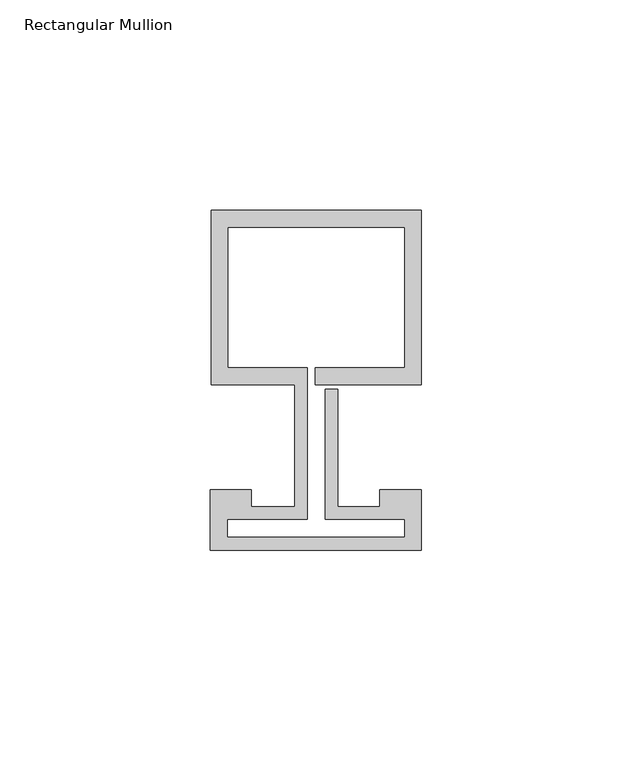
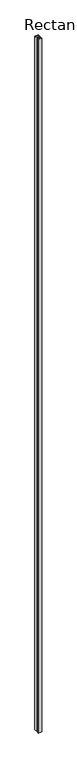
"""IFC4 building model written with IfcOpenShell, lengths in millimetres: member geometry, Rectangular Mullion : Reynaers_CW-50_Mullion-Transom_Vertical_41.5mm_Facecap-02A."""

from ifc_helpers import new_model, si_unit, frame, origin, place, context, project, spatial, polyline, outline, extrude, source, transform, mapped, element, save


def rectangular_mullion_6b61430f(model_context):
    return source(origin(), model_context, "Body", "SweptSolid", [
        extrude(outline(polyline([(-24.8004059, 54.0), (25.1995941, 54.0), (25.1995941, 12.5), (0.0, 12.5), (0.0, 16.5), (21.1995941, 16.5), (21.1995941, 50.0), (-20.8004059, 50.0), (-20.8004059, 16.5), (-1.9004059, 16.5), (-1.9004059, -19.5), (-20.994845, -19.5), (-20.994845, -23.7191338), (21.1995941, -23.7191338), (21.1995941, -19.5), (2.2995941, -19.5), (2.2995941, 11.5), (5.2995941, 11.5), (5.2995941, -16.5), (15.2996495, -16.5), (15.2996495, -12.5), (25.1995941, -12.5), (25.1995941, -26.8), (-24.994845, -26.8), (-24.994845, -12.5), (-15.2996495, -12.5), (-15.2996495, -16.5), (-4.9004059, -16.5), (-4.9004059, 12.5), (-24.8004059, 12.5), (-24.8004059, 54.0)])), frame((0.0, 0.0, -10400.0), z_axis=(0.0, 0.0, 1.0), x_axis=(1.0, 0.0, 0.0)), (0.0, 0.0, 1.0), 10400.0),
    ])


if __name__ == "__main__":
    model = new_model("IFC4")
    model_context = context("Model", 3, world=origin())
    ifc_project = project(units=[si_unit("LENGTHUNIT", "METRE", prefix="MILLI")], contexts=[model_context])
    site = spatial("IfcSite", under=ifc_project)
    building = spatial("IfcBuilding", under=site)
    placement = place(None, origin())
    rectangular_mullion_shape = rectangular_mullion_6b61430f(model_context)
    element("IfcMember", 1, ObjectType="Rectangular Mullion : Reynaers_CW-50_Mullion-Transom_Vertical_41.5mm_Facecap-02A", at=placement, inside=building, context=model_context, shape_type="MappedRepresentation", body=[
        mapped(rectangular_mullion_shape, transform((0.0, 0.0, 0.0), x_axis=(1.0, 0.0, 0.0), y_axis=(0.0, 1.0, 0.0), z_axis=(0.0, 0.0, 1.0))),
    ])
    save(model, "model.ifc")
